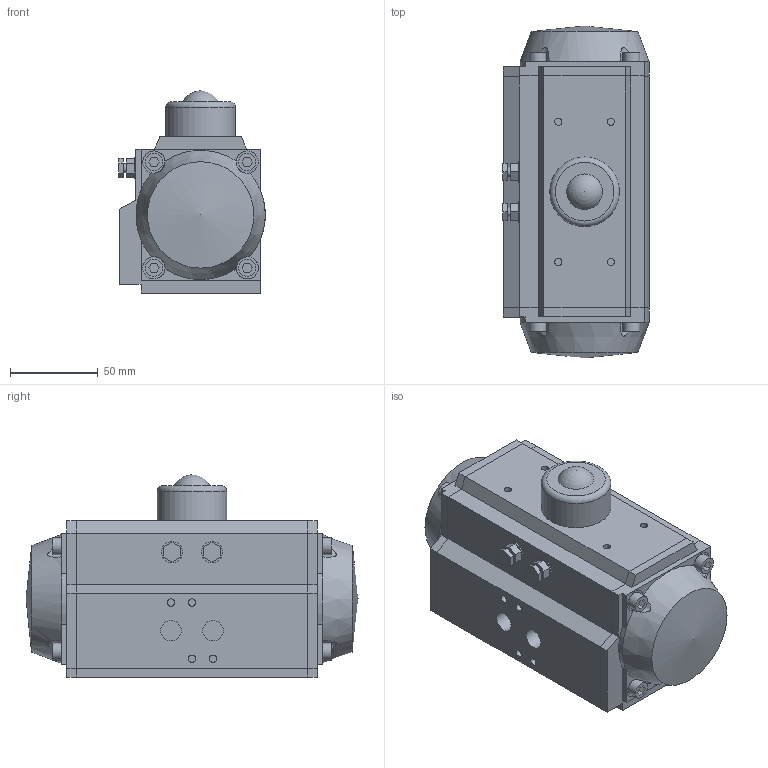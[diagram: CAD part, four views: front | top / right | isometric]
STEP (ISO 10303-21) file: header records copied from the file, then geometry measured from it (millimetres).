
FILE_DESCRIPTION((' '),'2;1');
FILE_NAME('N:\Technical Support\Private\Jomar Valve CAD\Actuation\JV\JV-60FusionCopy.stp','2017-05-26T09:39:53',(' '),(' '),' ','ACIS',' ');
FILE_SCHEMA(('CONFIG_CONTROL_DESIGN'));
Length unit declared in the file: inch
Products named in the file (22): N:\Technical Support\Private\Jomar Valve CAD\Actuation\JV\JV-60FusionCopy.stp; Body1; Body2; Body3; Body4; Body5; Body6; Body7; Body8; Body9; Body10; Body11; Body12; Body13; Body14; Body15; Body16; Body17; Body18; Body19; Body20; Body21
Assembly tree (21 placements, depth 2):
  N:\Technical Support\Private\Jomar Valve CAD\Actuation\JV\JV-60FusionCopy.stp
    Body1
    Body2
    Body3
    Body4
    Body5
    Body6
    Body7
    Body8
    Body9
    Body10
    Body11
    Body12
    Body13
    Body14
    Body15
    Body16
    Body17
    Body18
    Body19
    Body20
    Body21
Bounding box: 83.57 x 189.43 x 115.44 mm (x, y, z)
Volume: 1131319.8 mm3; surface area: 116018.9 mm2
Topology: 21 solids, 21 shells, 289 faces, 646 edges, 428 vertices
Faces by surface type: plane 145, bspline 109, cylinder 31, cone 2, torus 1, sphere 1
Full cylindrical faces by diameter (mm): 4.064 x4, 5.207 x1, 5.334 x1, 6 x2, 8 x2, 9.83 x4, 11.684 x2, 12.065 x1, 12.7 x4, 13.97 x1, 21.336 x1, 24.765 x2, 39.751 x1
Entity records: 11149 total; most frequent: CARTESIAN_POINT 2093, ORIENTED_EDGE 1158, DIRECTION 1142, EDGE_CURVE 579, VECTOR 446, LINE 446, VERTEX_POINT 411, EDGE_LOOP 368
